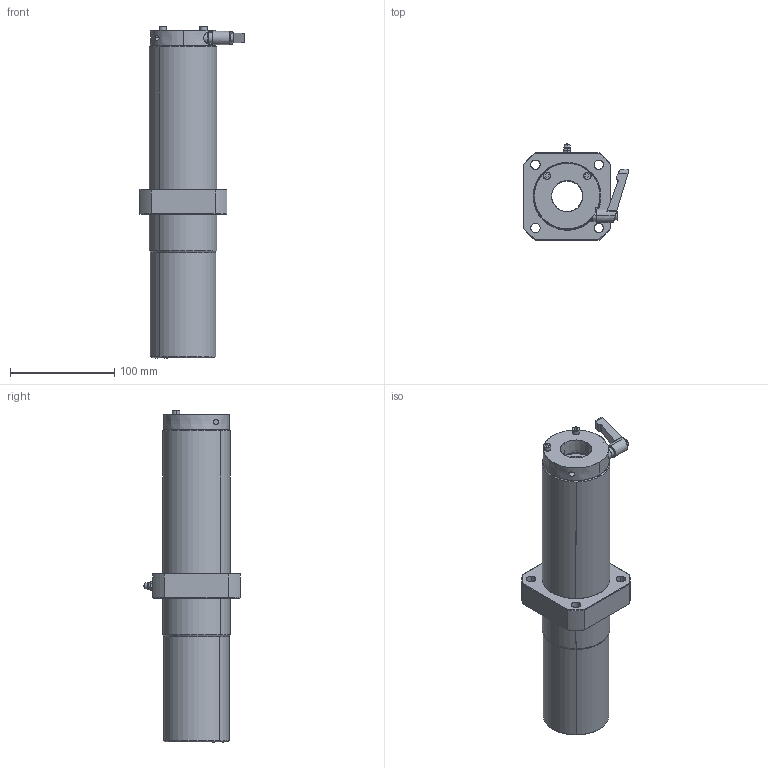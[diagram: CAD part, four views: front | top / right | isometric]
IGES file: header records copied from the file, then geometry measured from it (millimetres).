
Start section: SolidWorks IGES file using analytic representation for surfaces
Global section: file name: C:\Users\yamad\Desktop\IGES\LFWLC30-C.IGS; native system: SolidWorks 2019; preprocessor: SolidWorks 2019; author: yamad; date: 230626.174321; units: millimetre
Bounding box: 101.1 x 92.39 x 319 mm (x, y, z)
Surface area: 128650.7 mm2 (no closed solid volume)
Topology: 0 solids, 0 shells, 265 faces, 6112 edges, 6110 vertices
Faces by surface type: bspline 135, revolution 130
